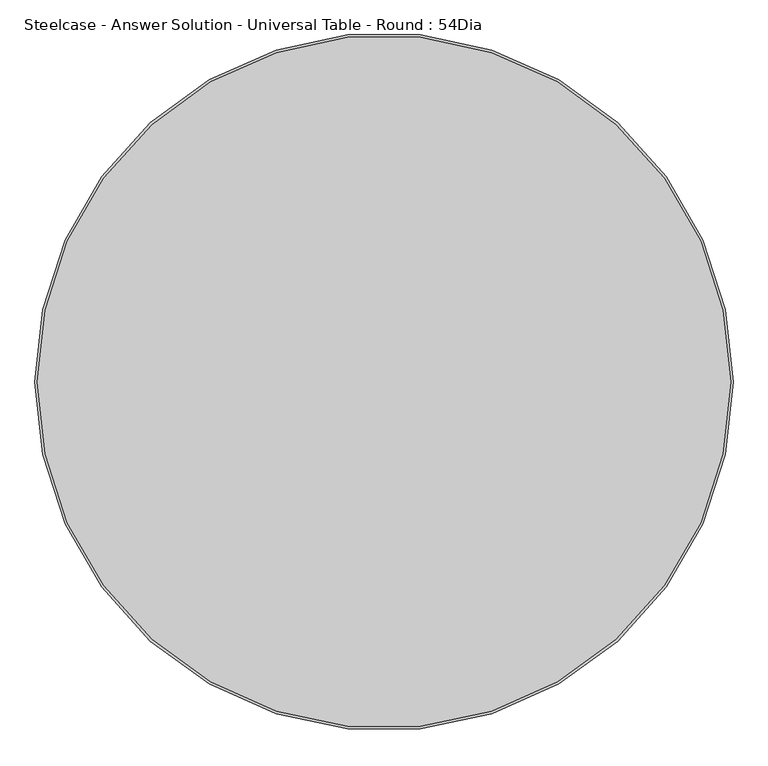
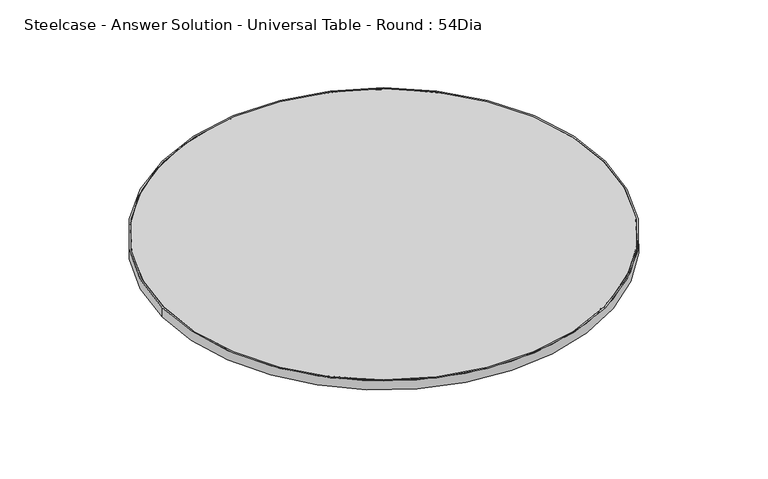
"""IFC4 building model written with IfcOpenShell, lengths in millimetres: furniture geometry, Steelcase - Answer Solution - Universal Table - Round : 54Dia."""

from ifc_helpers import new_model, si_unit, point, frame, origin, origin_2d, place, context, project, spatial, circle_curve, trimmed, segment, composite_curve, outline, extrude, source, transform, mapped, element, save


def steelcase_answer_solution_universal_table_round_54dia_efa4fc29(model_context):
    return source(origin(), model_context, "Body", "SweptSolid", [
        extrude(outline(composite_curve([segment(trimmed(circle_curve(origin_2d(), 690.88), [point((-690.88, 0.0))], [point((690.88, 0.0))], False, "CARTESIAN"), True, "CONTINUOUS"), segment(trimmed(circle_curve(origin_2d(), 690.88), [point((690.88, 0.0))], [point((-690.88, 0.0))], False, "CARTESIAN"), True, "CONTINUOUS")], self_intersect=False), holes=[composite_curve([segment(trimmed(circle_curve(origin_2d(), 685.8), [point((685.8, 0.0))], [point((-685.8, 0.0))], True, "CARTESIAN"), True, "CONTINUOUS"), segment(trimmed(circle_curve(origin_2d(), 685.8), [point((-685.8, 0.0))], [point((685.8, 0.0))], True, "CARTESIAN"), True, "CONTINUOUS")], self_intersect=False)]), frame((0.0, 0.0, 668.274), z_axis=(0.0, 0.0, 1.0), x_axis=(1.0, 0.0, 0.0)), (0.0, 0.0, 1.0), 30.0990349),
        extrude(outline(composite_curve([segment(trimmed(circle_curve(origin_2d(), 685.8), [point((-685.8, 0.0))], [point((685.8, 0.0))], False, "CARTESIAN"), True, "CONTINUOUS"), segment(trimmed(circle_curve(origin_2d(), 685.8), [point((685.8, 0.0))], [point((-685.8, 0.0))], False, "CARTESIAN"), True, "CONTINUOUS")], self_intersect=False)), frame((0.0, 0.0, 668.274), z_axis=(0.0, 0.0, 1.0), x_axis=(1.0, 0.0, 0.0)), (0.0, 0.0, 1.0), 30.0990349),
    ])


if __name__ == "__main__":
    model = new_model("IFC4")
    model_context = context("Model", 3, world=origin())
    ifc_project = project(units=[si_unit("LENGTHUNIT", "METRE", prefix="MILLI")], contexts=[model_context])
    site = spatial("IfcSite", under=ifc_project)
    building = spatial("IfcBuilding", under=site)
    placement = place(None, origin())
    steelcase_answer_solution_universal_table_round_54dia_shape = steelcase_answer_solution_universal_table_round_54dia_efa4fc29(model_context)
    element("IfcFurniture", 1, ObjectType="Steelcase - Answer Solution - Universal Table - Round : 54Dia", at=placement, inside=building, context=model_context, shape_type="MappedRepresentation", body=[
        mapped(steelcase_answer_solution_universal_table_round_54dia_shape, transform((0.0, 0.0, 0.0), x_axis=(1.0, 0.0, 0.0), y_axis=(0.0, 1.0, 0.0), z_axis=(0.0, 0.0, 1.0))),
    ])
    save(model, "model.ifc")
